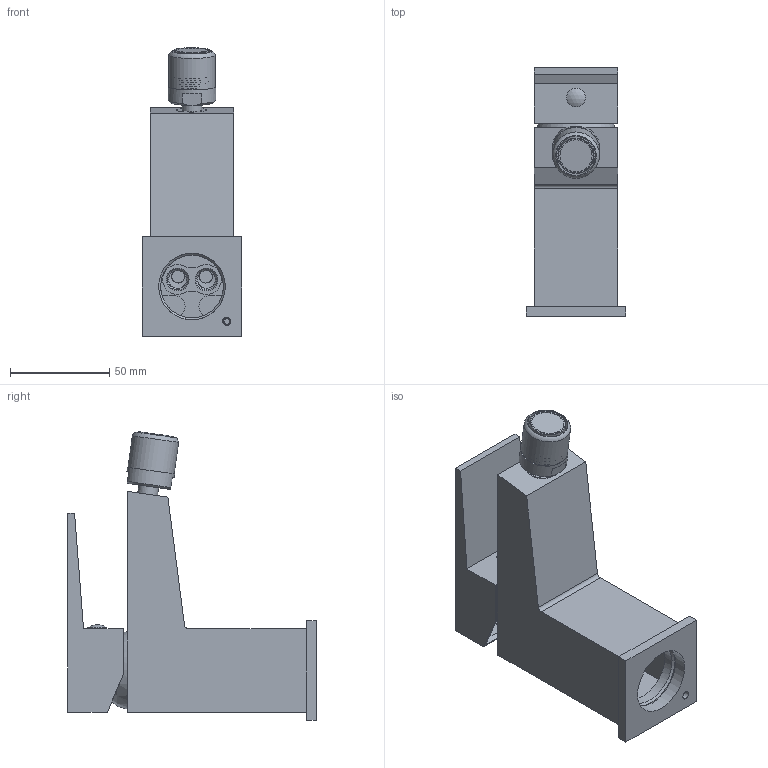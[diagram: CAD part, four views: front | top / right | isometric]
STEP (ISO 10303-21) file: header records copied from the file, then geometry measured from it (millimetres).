
FILE_DESCRIPTION(/* description */ (''),/* implementation_level */ '2;1');
FILE_NAME(/* name */ 'c:\worker\convert-fusion-jan-2019\tmp\job-1\9\output\files\a891b95e-f0f7-48dc-ae21-a6c51155043e\a7694f56-6052-42bf-b12c-39700a7f0c53.zip.stp',/* time_stamp */ '2019-01-09T14:23:08+00:00',/* author */ (''),/* organization */ (''),/* preprocessor_version */ 'ST-DEVELOPER v17.2',/* originating_system */ 'Autodesk Translation Framework v7.6.0.251',/* authorisation */ '');
FILE_SCHEMA (('AUTOMOTIVE_DESIGN { 1 0 10303 214 3 1 1 }'));
Length unit declared in the file: millimetre
Products named in the file (1): !FR7120
Bounding box: 50 x 125.03 x 144.98 mm (x, y, z)
Volume: 163051.8 mm3; surface area: 106711.2 mm2
Topology: 19 solids, 19 shells, 499 faces, 1425 edges, 1003 vertices
Faces by surface type: plane 229, cylinder 169, cone 46, bspline 39, torus 11, sphere 5
Full cylindrical faces by diameter (mm): 2.5 x2, 3.3 x1, 4 x15, 4.1 x1, 4.2 x1, 5 x2, 5.5 x2, 6.5 x2, 6.7 x1, 7 x1, 8 x4, 9 x2, 9.5 x1, 9.7 x2, 10 x2, 10.5 x2, 12.5 x2, 15 x2, 15.8 x1, 16 x4, 16.2 x1, 17.4 x1, 17.6 x1, 17.8 x1, 18 x1, 18.5 x1, 18.9 x1, 19 x2, 19.5 x1, 20 x3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
Entity records: 32209 total; most frequent: CARTESIAN_POINT 19082, ORIENTED_EDGE 2848, DIRECTION 2575, EDGE_CURVE 1424, VERTEX_POINT 1003, AXIS2_PLACEMENT_3D 990, EDGE_LOOP 595, LINE 595
